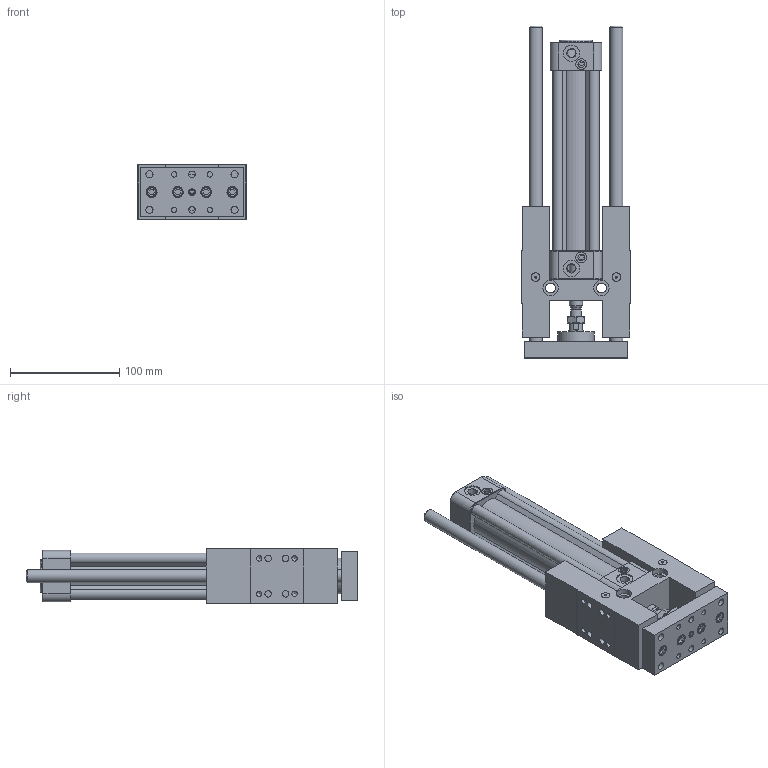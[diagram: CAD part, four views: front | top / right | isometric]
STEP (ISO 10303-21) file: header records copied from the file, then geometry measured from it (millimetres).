
FILE_DESCRIPTION((''),'2;1');
FILE_NAME('I:\3D電子目錄\氣缸\GHB(U)\GHB(U)\GHB(U)32\GHB(U)32x125.stp','2007-10-19T10:34:59',('Administrator'),(''),'Autodesk Inventor 11','Autodesk Inventor 11','');
FILE_SCHEMA(('AUTOMOTIVE_DESIGN { 1 0 10303 214 1 1 1 1 }'));
Length unit declared in the file: millimetre
Products named in the file (1): GHB(U)32
Bounding box: 99 x 304 x 50.2 mm (x, y, z)
Volume: 669640.7 mm3; surface area: 181966.1 mm2
Topology: 17 solids, 17 shells, 738 faces, 1598 edges, 986 vertices
Faces by surface type: plane 291, bspline 199, cylinder 159, cone 80, torus 9
Full cylindrical faces by diameter (mm): 2.6 x2, 4.9 x2, 4.917 x4, 5 x5, 5.5 x10, 6 x11, 6.5 x8, 7.5 x1, 7.8 x4, 7.9 x3, 8 x5, 9 x8, 10 x7, 10.2 x8, 12 x4, 13 x1, 14 x1, 15 x2, 17 x2, 30 x1, 32 x1, 33 x1
Entity records: 20771 total; most frequent: CARTESIAN_POINT 6160, DIRECTION 2934, ORIENTED_EDGE 2754, EDGE_CURVE 1377, AXIS2_PLACEMENT_3D 1157, EDGE_LOOP 1056, VERTEX_POINT 953, FACE_OUTER_BOUND 738
